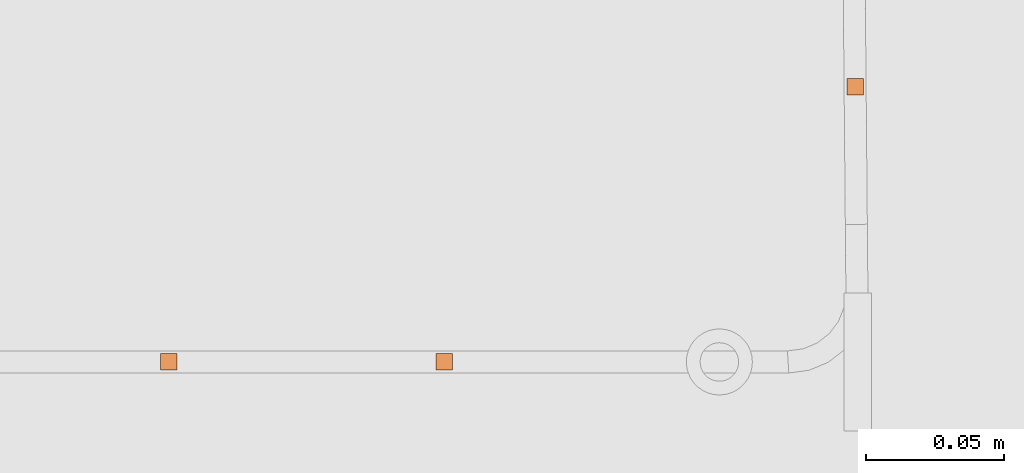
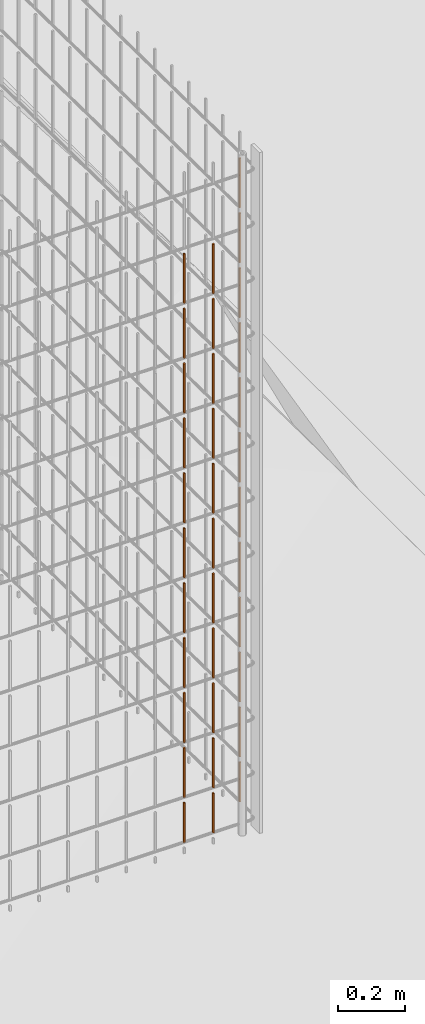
# One storey, part 254 of 1809: 34 proxies, 1 element without a shape of its own.
"""IFC2X3 building model written with IfcOpenShell, lengths in millimetres."""

from ifc_helpers import new_model, entity, si_unit, converted_unit, derived_unit, money_unit, direction, frame, origin_with_axes, place, context, subcontext, project, spatial, faceted_brep, source, transform, mapped, material, type_object, element, aggregate, save


model = new_model("IFC2X3")

# Units and contexts
model_context = context("Model", 3, precision=0.01, world=origin_with_axes(), true_north=direction((0.0, 1.0)))
body_context = subcontext(model_context, "Body", "Model", "MODEL_VIEW")
ifc_project = project(units=[si_unit("LENGTHUNIT", "METRE", prefix="MILLI"), si_unit("AREAUNIT", "SQUARE_METRE"), si_unit("VOLUMEUNIT", "CUBIC_METRE"), converted_unit("PLANEANGLEUNIT", "DEGREE", entity("IfcPlaneAngleMeasure", 0.0174532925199), si_unit("PLANEANGLEUNIT", "RADIAN"), dimensions=[0, 0, 0, 0, 0, 0, 0]), si_unit("SOLIDANGLEUNIT", "STERADIAN"), money_unit("EUR"), converted_unit("TIMEUNIT", "Year", entity("IfcTimeMeasure", 31556926.0), si_unit("TIMEUNIT", "SECOND"), dimensions=[0, 0, 1, 0, 0, 0, 0]), si_unit("MASSUNIT", "GRAM", prefix="KILO"), si_unit("THERMODYNAMICTEMPERATUREUNIT", "DEGREE_CELSIUS"), si_unit("LUMINOUSINTENSITYUNIT", "LUMEN"), si_unit("ENERGYUNIT", "JOULE", prefix="MEGA"), derived_unit("THERMALCONDUCTANCEUNIT", [(si_unit("POWERUNIT", "WATT"), 1), (si_unit("LENGTHUNIT", "METRE"), -1), (si_unit("THERMODYNAMICTEMPERATUREUNIT", "KELVIN"), -1)]), derived_unit("SPECIFICHEATCAPACITYUNIT", [(si_unit("ENERGYUNIT", "JOULE"), 1), (si_unit("MASSUNIT", "GRAM", prefix="KILO"), -1), (si_unit("THERMODYNAMICTEMPERATUREUNIT", "KELVIN"), -1)]), derived_unit("MASSDENSITYUNIT", [(si_unit("MASSUNIT", "GRAM", prefix="KILO"), 1), (si_unit("VOLUMEUNIT", "CUBIC_METRE"), -1)])], contexts=[model_context])

# Site, building, storey
site_placement = place(None, origin_with_axes())
site = spatial("IfcSite", under=ifc_project, at=site_placement, Name="Politse- ja Piirivalveameti ning Päästeameti ühishoone", CompositionType="ELEMENT")
building_placement = place(site_placement, origin_with_axes())
building = spatial("IfcBuilding", under=site, at=building_placement, Name="Politse- ja Piirivalveameti ning Päästeameti ühishoone", CompositionType="ELEMENT")
storey_placement = place(building_placement, origin_with_axes())
storey = spatial("IfcBuildingStorey", under=building, at=storey_placement, Name="Esimene korrus", CompositionType="ELEMENT", Elevation=0.0)

# Proxies
building_element_proxy_type_1 = type_object("IfcBuildingElementProxyType", Name="Railing Type", PredefinedType="NOTDEFINED")
proxy_1_placement = place(storey_placement, frame((-16775.8601056, 25156.7555964, 0.0), z_axis=(0.0, 0.0, 1.0), x_axis=(1.0, 0.0, 0.0)))
proxy_1 = element("IfcBuildingElementProxy", 1, at=proxy_1_placement, inside=storey, type_object=building_element_proxy_type_1, Name="KENNELI PIIRE")
ifc_material = material(Name="Teras - Konstruktsioon")
building_element_proxy_type_2 = type_object("IfcBuildingElementProxyType", Name="IfcBuildingElementProxy", PredefinedType="NOTDEFINED")
shared_shape_1 = source(origin_with_axes(), body_context, "Body", "Brep", [
    faceted_brep([(3.0, 3.0, 0.0), (-3.0, 3.0, 0.0), (-3.0, 3.0, 180.000012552), (3.0, 3.0, 180.000012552), (3.0, -3.0, 0.0), (-3.0, -3.0, 0.0), (-3.0, -3.0, 180.000012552), (3.0, -3.0, 180.000012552)], [[[0, 1, 2, 3]], [[0, 4, 5, 1]], [[1, 5, 6, 2]], [[3, 2, 6, 7]], [[4, 0, 3, 7]], [[5, 4, 7, 6]]]),
])
proxy_2_placement = place(proxy_1_placement, frame((-82.2665506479, -16068.8402798, 403.999987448), z_axis=(0.0, 0.0, 1.0), x_axis=(1.0, 0.0, 0.0)))
proxy_2 = element("IfcBuildingElementProxy", 2, at=proxy_2_placement, type_object=building_element_proxy_type_2, material=ifc_material, Name="BALUSTER - 001", context=body_context, shape_type="MappedRepresentation", body=[
    mapped(shared_shape_1, transform((0.0, 0.0, 0.0), x_axis=(0.0, -1.0, 0.0), y_axis=(1.0, 0.0, 0.0), z_axis=(0.0, 0.0, 1.0))),
])
proxy_3_placement = place(proxy_1_placement, frame((17.7334493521, -16068.8402798, 403.999987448), z_axis=(0.0, 0.0, 1.0), x_axis=(1.0, 0.0, 0.0)))
proxy_3 = element("IfcBuildingElementProxy", 3, at=proxy_3_placement, type_object=building_element_proxy_type_2, material=ifc_material, Name="BALUSTER - 001", context=body_context, shape_type="MappedRepresentation", body=[
    mapped(shared_shape_1, transform((0.0, 0.0, 0.0), x_axis=(0.0, -1.0, 0.0), y_axis=(1.0, 0.0, 0.0), z_axis=(0.0, 0.0, 1.0))),
])
proxy_4_placement = place(proxy_1_placement, frame((-82.2665506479, -16068.8402798, 803.999987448), z_axis=(0.0, 0.0, 1.0), x_axis=(1.0, 0.0, 0.0)))
proxy_4 = element("IfcBuildingElementProxy", 4, at=proxy_4_placement, type_object=building_element_proxy_type_2, material=ifc_material, Name="BALUSTER - 001", context=body_context, shape_type="MappedRepresentation", body=[
    mapped(shared_shape_1, transform((0.0, 0.0, 0.0), x_axis=(0.0, -1.0, 0.0), y_axis=(1.0, 0.0, 0.0), z_axis=(0.0, 0.0, 1.0))),
])
proxy_5_placement = place(proxy_1_placement, frame((17.7334493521, -16068.8402798, 803.999987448), z_axis=(0.0, 0.0, 1.0), x_axis=(1.0, 0.0, 0.0)))
proxy_5 = element("IfcBuildingElementProxy", 5, at=proxy_5_placement, type_object=building_element_proxy_type_2, material=ifc_material, Name="BALUSTER - 001", context=body_context, shape_type="MappedRepresentation", body=[
    mapped(shared_shape_1, transform((0.0, 0.0, 0.0), x_axis=(0.0, -1.0, 0.0), y_axis=(1.0, 0.0, 0.0), z_axis=(0.0, 0.0, 1.0))),
])
proxy_6_placement = place(proxy_1_placement, frame((-82.2665506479, -16068.8402798, 1003.99998745), z_axis=(0.0, 0.0, 1.0), x_axis=(1.0, 0.0, 0.0)))
proxy_6 = element("IfcBuildingElementProxy", 6, at=proxy_6_placement, type_object=building_element_proxy_type_2, material=ifc_material, Name="BALUSTER - 001", context=body_context, shape_type="MappedRepresentation", body=[
    mapped(shared_shape_1, transform((0.0, 0.0, 0.0), x_axis=(0.0, -1.0, 0.0), y_axis=(1.0, 0.0, 0.0), z_axis=(0.0, 0.0, 1.0))),
])
proxy_7_placement = place(proxy_1_placement, frame((17.7334493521, -16068.8402798, 1003.99998745), z_axis=(0.0, 0.0, 1.0), x_axis=(1.0, 0.0, 0.0)))
proxy_7 = element("IfcBuildingElementProxy", 7, at=proxy_7_placement, type_object=building_element_proxy_type_2, material=ifc_material, Name="BALUSTER - 001", context=body_context, shape_type="MappedRepresentation", body=[
    mapped(shared_shape_1, transform((0.0, 0.0, 0.0), x_axis=(0.0, -1.0, 0.0), y_axis=(1.0, 0.0, 0.0), z_axis=(0.0, 0.0, 1.0))),
])
proxy_8_placement = place(proxy_1_placement, frame((167.043761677, -15968.8442356, 403.999987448), z_axis=(0.0, 0.0, 1.0), x_axis=(1.0, 0.0, 0.0)))
proxy_8 = element("IfcBuildingElementProxy", 8, at=proxy_8_placement, type_object=building_element_proxy_type_2, material=ifc_material, Name="BALUSTER - 001", context=body_context, shape_type="MappedRepresentation", body=[
    mapped(shared_shape_1, transform((0.0, 0.0, 0.0), x_axis=(0.999960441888, 0.00889464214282, 0.0), y_axis=(-0.00889464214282, 0.999960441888, 0.0), z_axis=(0.0, 0.0, 1.0))),
])
proxy_9_placement = place(proxy_1_placement, frame((167.043761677, -15968.8442356, 803.999987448), z_axis=(0.0, 0.0, 1.0), x_axis=(1.0, 0.0, 0.0)))
proxy_9 = element("IfcBuildingElementProxy", 9, at=proxy_9_placement, type_object=building_element_proxy_type_2, material=ifc_material, Name="BALUSTER - 001", context=body_context, shape_type="MappedRepresentation", body=[
    mapped(shared_shape_1, transform((0.0, 0.0, 0.0), x_axis=(0.999960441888, 0.00889464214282, 0.0), y_axis=(-0.00889464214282, 0.999960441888, 0.0), z_axis=(0.0, 0.0, 1.0))),
])
proxy_10_placement = place(proxy_1_placement, frame((167.043761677, -15968.8442356, 1003.99998745), z_axis=(0.0, 0.0, 1.0), x_axis=(1.0, 0.0, 0.0)))
proxy_10 = element("IfcBuildingElementProxy", 10, at=proxy_10_placement, type_object=building_element_proxy_type_2, material=ifc_material, Name="BALUSTER - 001", context=body_context, shape_type="MappedRepresentation", body=[
    mapped(shared_shape_1, transform((0.0, 0.0, 0.0), x_axis=(0.999960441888, 0.00889464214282, 0.0), y_axis=(-0.00889464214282, 0.999960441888, 0.0), z_axis=(0.0, 0.0, 1.0))),
])
shared_shape_2 = source(origin_with_axes(), body_context, "Body", "Brep", [
    faceted_brep([(3.0, 3.0, 0.0), (-3.0, 3.0, 0.0), (-3.0, 3.0, 144.000012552), (3.0, 3.0, 144.000012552), (3.0, -3.0, 0.0), (-3.0, -3.0, 0.0), (-3.0, -3.0, 144.000012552), (3.0, -3.0, 144.000012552)], [[[0, 1, 2, 3]], [[0, 4, 5, 1]], [[1, 5, 6, 2]], [[3, 2, 6, 7]], [[4, 0, 3, 7]], [[5, 4, 7, 6]]]),
])
proxy_11_placement = place(proxy_1_placement, frame((-82.2665506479, -16068.8402798, 39.9999874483), z_axis=(0.0, 0.0, 1.0), x_axis=(1.0, 0.0, 0.0)))
proxy_11 = element("IfcBuildingElementProxy", 11, at=proxy_11_placement, type_object=building_element_proxy_type_2, material=ifc_material, Name="BALUSTER - 001", context=body_context, shape_type="MappedRepresentation", body=[
    mapped(shared_shape_2, transform((0.0, 0.0, 0.0), x_axis=(0.0, -1.0, 0.0), y_axis=(1.0, 0.0, 0.0), z_axis=(0.0, 0.0, 1.0))),
])
proxy_12_placement = place(proxy_1_placement, frame((17.7334493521, -16068.8402798, 39.9999874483), z_axis=(0.0, 0.0, 1.0), x_axis=(1.0, 0.0, 0.0)))
proxy_12 = element("IfcBuildingElementProxy", 12, at=proxy_12_placement, type_object=building_element_proxy_type_2, material=ifc_material, Name="BALUSTER - 001", context=body_context, shape_type="MappedRepresentation", body=[
    mapped(shared_shape_2, transform((0.0, 0.0, 0.0), x_axis=(0.0, -1.0, 0.0), y_axis=(1.0, 0.0, 0.0), z_axis=(0.0, 0.0, 1.0))),
])
proxy_13_placement = place(proxy_1_placement, frame((167.043761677, -15968.8442356, 39.9999874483), z_axis=(0.0, 0.0, 1.0), x_axis=(1.0, 0.0, 0.0)))
proxy_13 = element("IfcBuildingElementProxy", 13, at=proxy_13_placement, type_object=building_element_proxy_type_2, material=ifc_material, Name="BALUSTER - 001", context=body_context, shape_type="MappedRepresentation", body=[
    mapped(shared_shape_2, transform((0.0, 0.0, 0.0), x_axis=(0.999960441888, 0.00889464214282, 0.0), y_axis=(-0.00889464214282, 0.999960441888, 0.0), z_axis=(0.0, 0.0, 1.0))),
])
shared_shape_3 = source(origin_with_axes(), body_context, "Body", "Brep", [
    faceted_brep([(3.0, 3.0, 0.0), (-3.0, 3.0, 0.0), (-3.0, 3.0, 180.000012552), (3.0, 3.0, 180.000012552), (3.0, -3.0, 0.0), (-3.0, -3.0, 0.0), (-3.0, -3.0, 180.000012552), (3.0, -3.0, 180.000012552)], [[[0, 1, 2, 3]], [[0, 4, 5, 1]], [[1, 5, 6, 2]], [[3, 2, 6, 7]], [[4, 0, 3, 7]], [[5, 4, 7, 6]]]),
])
proxy_14_placement = place(proxy_1_placement, frame((167.043761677, -15968.8442356, 1803.99998745), z_axis=(0.0, 0.0, 1.0), x_axis=(1.0, 0.0, 0.0)))
proxy_14 = element("IfcBuildingElementProxy", 14, at=proxy_14_placement, type_object=building_element_proxy_type_2, material=ifc_material, Name="BALUSTER - 001", context=body_context, shape_type="MappedRepresentation", body=[
    mapped(shared_shape_3, transform((0.0, 0.0, 0.0), x_axis=(0.999960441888, 0.00889464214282, 0.0), y_axis=(-0.00889464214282, 0.999960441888, 0.0), z_axis=(0.0, 0.0, 1.0))),
])
shared_shape_4 = source(origin_with_axes(), body_context, "Body", "Brep", [
    faceted_brep([(3.0, 3.0, 0.0), (-3.0, 3.0, 0.0), (-3.0, 3.0, 180.000012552), (3.0, 3.0, 180.000012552), (3.0, -3.0, 0.0), (-3.0, -3.0, 0.0), (-3.0, -3.0, 180.000012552), (3.0, -3.0, 180.000012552)], [[[0, 1, 2, 3]], [[0, 4, 5, 1]], [[1, 5, 6, 2]], [[3, 2, 6, 7]], [[4, 0, 3, 7]], [[5, 4, 7, 6]]]),
])
proxy_15_placement = place(proxy_1_placement, frame((-82.2665506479, -16068.8402798, 1403.99998745), z_axis=(0.0, 0.0, 1.0), x_axis=(1.0, 0.0, 0.0)))
proxy_15 = element("IfcBuildingElementProxy", 15, at=proxy_15_placement, type_object=building_element_proxy_type_2, material=ifc_material, Name="BALUSTER - 001", context=body_context, shape_type="MappedRepresentation", body=[
    mapped(shared_shape_4, transform((0.0, 0.0, 0.0), x_axis=(0.0, -1.0, 0.0), y_axis=(1.0, 0.0, 0.0), z_axis=(0.0, 0.0, 1.0))),
])
proxy_16_placement = place(proxy_1_placement, frame((17.7334493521, -16068.8402798, 1403.99998745), z_axis=(0.0, 0.0, 1.0), x_axis=(1.0, 0.0, 0.0)))
proxy_16 = element("IfcBuildingElementProxy", 16, at=proxy_16_placement, type_object=building_element_proxy_type_2, material=ifc_material, Name="BALUSTER - 001", context=body_context, shape_type="MappedRepresentation", body=[
    mapped(shared_shape_4, transform((0.0, 0.0, 0.0), x_axis=(0.0, -1.0, 0.0), y_axis=(1.0, 0.0, 0.0), z_axis=(0.0, 0.0, 1.0))),
])
proxy_17_placement = place(proxy_1_placement, frame((167.043761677, -15968.8442356, 1403.99998745), z_axis=(0.0, 0.0, 1.0), x_axis=(1.0, 0.0, 0.0)))
proxy_17 = element("IfcBuildingElementProxy", 17, at=proxy_17_placement, type_object=building_element_proxy_type_2, material=ifc_material, Name="BALUSTER - 001", context=body_context, shape_type="MappedRepresentation", body=[
    mapped(shared_shape_4, transform((0.0, 0.0, 0.0), x_axis=(0.999960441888, 0.00889464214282, 0.0), y_axis=(-0.00889464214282, 0.999960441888, 0.0), z_axis=(0.0, 0.0, 1.0))),
])
shared_shape_5 = source(origin_with_axes(), body_context, "Body", "Brep", [
    faceted_brep([(3.0, 3.0, 0.0), (-3.0, 3.0, 0.0), (-3.0, 3.0, 180.000012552), (3.0, 3.0, 180.000012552), (3.0, -3.0, 0.0), (-3.0, -3.0, 0.0), (-3.0, -3.0, 180.000012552), (3.0, -3.0, 180.000012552)], [[[0, 1, 2, 3]], [[0, 4, 5, 1]], [[1, 5, 6, 2]], [[3, 2, 6, 7]], [[4, 0, 3, 7]], [[5, 4, 7, 6]]]),
])
proxy_18_placement = place(proxy_1_placement, frame((-82.2665506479, -16068.8402798, 1803.99998745), z_axis=(0.0, 0.0, 1.0), x_axis=(1.0, 0.0, 0.0)))
proxy_18 = element("IfcBuildingElementProxy", 18, at=proxy_18_placement, type_object=building_element_proxy_type_2, material=ifc_material, Name="BALUSTER - 001", context=body_context, shape_type="MappedRepresentation", body=[
    mapped(shared_shape_5, transform((0.0, 0.0, 0.0), x_axis=(0.0, -1.0, 0.0), y_axis=(1.0, 0.0, 0.0), z_axis=(0.0, 0.0, 1.0))),
])
shared_shape_6 = source(origin_with_axes(), body_context, "Body", "Brep", [
    faceted_brep([(3.0, 3.0, 0.0), (-3.0, 3.0, 0.0), (-3.0, 2.99999999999, 180.000012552), (3.0, 2.99999999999, 180.000012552), (3.0, -3.0, 0.0), (-3.0, -3.0, 0.0), (-3.0, -3.00000000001, 180.000012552), (3.0, -3.00000000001, 180.000012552)], [[[0, 1, 2, 3]], [[0, 4, 5, 1]], [[1, 5, 6, 2]], [[3, 2, 6, 7]], [[4, 0, 3, 7]], [[5, 4, 7, 6]]]),
])
proxy_19_placement = place(proxy_1_placement, frame((17.7334493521, -16068.8402798, 1803.99998745), z_axis=(0.0, 0.0, 1.0), x_axis=(1.0, 0.0, 0.0)))
proxy_19 = element("IfcBuildingElementProxy", 19, at=proxy_19_placement, type_object=building_element_proxy_type_2, material=ifc_material, Name="BALUSTER - 001", context=body_context, shape_type="MappedRepresentation", body=[
    mapped(shared_shape_6, transform((0.0, 0.0, 0.0), x_axis=(0.0, -1.0, 0.0), y_axis=(1.0, 0.0, 0.0), z_axis=(0.0, 0.0, 1.0))),
])
shared_shape_7 = source(origin_with_axes(), body_context, "Body", "Brep", [
    faceted_brep([(3.0, 3.0, 0.0), (-3.0, 3.0, 0.0), (-3.0, 3.0, 180.000012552), (3.0, 3.0, 180.000012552), (3.0, -3.0, 0.0), (-3.0, -3.0, 0.0), (-3.0, -3.0, 180.000012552), (3.0, -3.0, 180.000012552)], [[[0, 1, 2, 3]], [[0, 4, 5, 1]], [[1, 5, 6, 2]], [[3, 2, 6, 7]], [[4, 0, 3, 7]], [[5, 4, 7, 6]]]),
])
proxy_20_placement = place(proxy_1_placement, frame((-82.2665506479, -16068.8402798, 2003.99998745), z_axis=(0.0, 0.0, 1.0), x_axis=(1.0, 0.0, 0.0)))
proxy_20 = element("IfcBuildingElementProxy", 20, at=proxy_20_placement, type_object=building_element_proxy_type_2, material=ifc_material, Name="BALUSTER - 001", context=body_context, shape_type="MappedRepresentation", body=[
    mapped(shared_shape_7, transform((0.0, 0.0, 0.0), x_axis=(0.0, -1.0, 0.0), y_axis=(1.0, 0.0, 0.0), z_axis=(0.0, 0.0, 1.0))),
])
proxy_21_placement = place(proxy_1_placement, frame((17.7334493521, -16068.8402798, 2003.99998745), z_axis=(0.0, 0.0, 1.0), x_axis=(1.0, 0.0, 0.0)))
proxy_21 = element("IfcBuildingElementProxy", 21, at=proxy_21_placement, type_object=building_element_proxy_type_2, material=ifc_material, Name="BALUSTER - 001", context=body_context, shape_type="MappedRepresentation", body=[
    mapped(shared_shape_7, transform((0.0, 0.0, 0.0), x_axis=(0.0, -1.0, 0.0), y_axis=(1.0, 0.0, 0.0), z_axis=(0.0, 0.0, 1.0))),
])
proxy_22_placement = place(proxy_1_placement, frame((167.043761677, -15968.8442356, 2003.99998745), z_axis=(0.0, 0.0, 1.0), x_axis=(1.0, 0.0, 0.0)))
proxy_22 = element("IfcBuildingElementProxy", 22, at=proxy_22_placement, type_object=building_element_proxy_type_2, material=ifc_material, Name="BALUSTER - 001", context=body_context, shape_type="MappedRepresentation", body=[
    mapped(shared_shape_7, transform((0.0, 0.0, 0.0), x_axis=(0.999960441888, 0.00889464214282, 0.0), y_axis=(-0.00889464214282, 0.999960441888, 0.0), z_axis=(0.0, 0.0, 1.0))),
])
shared_shape_8 = source(origin_with_axes(), body_context, "Body", "Brep", [
    faceted_brep([(3.0, 3.0, 0.0), (-3.0, 3.0, 0.0), (-3.0, 3.0, 180.000012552), (3.0, 3.0, 180.000012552), (3.0, -3.0, 0.0), (-3.0, -3.0, 0.0), (-3.0, -3.0, 180.000012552), (3.0, -3.0, 180.000012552)], [[[0, 1, 2, 3]], [[0, 4, 5, 1]], [[1, 5, 6, 2]], [[3, 2, 6, 7]], [[4, 0, 3, 7]], [[5, 4, 7, 6]]]),
])
proxy_23_placement = place(proxy_1_placement, frame((167.043761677, -15968.8442356, 2203.99998745), z_axis=(0.0, 0.0, 1.0), x_axis=(1.0, 0.0, 0.0)))
proxy_23 = element("IfcBuildingElementProxy", 23, at=proxy_23_placement, type_object=building_element_proxy_type_2, material=ifc_material, Name="BALUSTER - 001", context=body_context, shape_type="MappedRepresentation", body=[
    mapped(shared_shape_8, transform((0.0, 0.0, 0.0), x_axis=(0.999960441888, 0.00889464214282, 0.0), y_axis=(-0.00889464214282, 0.999960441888, 0.0), z_axis=(0.0, 0.0, 1.0))),
])
proxy_24_placement = place(proxy_1_placement, frame((167.043761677, -15968.8442356, 1203.99998745), z_axis=(0.0, 0.0, 1.0), x_axis=(1.0, 0.0, 0.0)))
proxy_24 = element("IfcBuildingElementProxy", 24, at=proxy_24_placement, type_object=building_element_proxy_type_2, material=ifc_material, Name="BALUSTER - 001", context=body_context, shape_type="MappedRepresentation", body=[
    mapped(shared_shape_8, transform((0.0, 0.0, 0.0), x_axis=(0.999960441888, 0.00889464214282, 0.0), y_axis=(-0.00889464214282, 0.999960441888, 0.0), z_axis=(0.0, 0.0, 1.0))),
])
shared_shape_9 = source(origin_with_axes(), body_context, "Body", "Brep", [
    faceted_brep([(3.0, 3.0, 0.0), (-3.0, 3.0, 0.0), (-3.0, 3.0, 180.000012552), (3.0, 3.0, 180.000012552), (3.0, -3.0, 0.0), (-3.0, -3.0, 0.0), (-3.0, -3.0, 180.000012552), (3.0, -3.0, 180.000012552)], [[[0, 1, 2, 3]], [[0, 4, 5, 1]], [[1, 5, 6, 2]], [[3, 2, 6, 7]], [[4, 0, 3, 7]], [[5, 4, 7, 6]]]),
])
proxy_25_placement = place(proxy_1_placement, frame((167.043761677, -15968.8442356, 203.999987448), z_axis=(0.0, 0.0, 1.0), x_axis=(1.0, 0.0, 0.0)))
proxy_25 = element("IfcBuildingElementProxy", 25, at=proxy_25_placement, type_object=building_element_proxy_type_2, material=ifc_material, Name="BALUSTER - 001", context=body_context, shape_type="MappedRepresentation", body=[
    mapped(shared_shape_9, transform((0.0, 0.0, 0.0), x_axis=(0.999960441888, 0.00889464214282, 0.0), y_axis=(-0.00889464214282, 0.999960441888, 0.0), z_axis=(0.0, 0.0, 1.0))),
])
shared_shape_10 = source(origin_with_axes(), body_context, "Body", "Brep", [
    faceted_brep([(3.0, 3.0, 0.0), (-3.0, 3.0, 0.0), (-3.0, 3.0, 180.000012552), (3.0, 3.0, 180.000012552), (3.0, -3.0, 0.0), (-3.0, -3.0, 0.0), (-3.0, -3.0, 180.000012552), (3.0, -3.0, 180.000012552)], [[[0, 1, 2, 3]], [[0, 4, 5, 1]], [[1, 5, 6, 2]], [[3, 2, 6, 7]], [[4, 0, 3, 7]], [[5, 4, 7, 6]]]),
])
proxy_26_placement = place(proxy_1_placement, frame((167.043761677, -15968.8442356, 603.999987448), z_axis=(0.0, 0.0, 1.0), x_axis=(1.0, 0.0, 0.0)))
proxy_26 = element("IfcBuildingElementProxy", 26, at=proxy_26_placement, type_object=building_element_proxy_type_2, material=ifc_material, Name="BALUSTER - 001", context=body_context, shape_type="MappedRepresentation", body=[
    mapped(shared_shape_10, transform((0.0, 0.0, 0.0), x_axis=(0.999960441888, 0.00889464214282, 0.0), y_axis=(-0.00889464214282, 0.999960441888, 0.0), z_axis=(0.0, 0.0, 1.0))),
])
shared_shape_11 = source(origin_with_axes(), body_context, "Body", "Brep", [
    faceted_brep([(3.0, 3.0, 0.0), (-3.0, 3.0, 0.0), (-3.0, 3.0, 180.000012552), (3.0, 3.0, 180.000012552), (3.0, -3.0, 0.0), (-3.0, -3.0, 0.0), (-3.0, -3.0, 180.000012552), (3.0, -3.0, 180.000012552)], [[[0, 1, 2, 3]], [[0, 4, 5, 1]], [[1, 5, 6, 2]], [[3, 2, 6, 7]], [[4, 0, 3, 7]], [[5, 4, 7, 6]]]),
])
proxy_27_placement = place(proxy_1_placement, frame((167.043761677, -15968.8442356, 1603.99998745), z_axis=(0.0, 0.0, 1.0), x_axis=(1.0, 0.0, 0.0)))
proxy_27 = element("IfcBuildingElementProxy", 27, at=proxy_27_placement, type_object=building_element_proxy_type_2, material=ifc_material, Name="BALUSTER - 001", context=body_context, shape_type="MappedRepresentation", body=[
    mapped(shared_shape_11, transform((0.0, 0.0, 0.0), x_axis=(0.999960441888, 0.00889464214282, 0.0), y_axis=(-0.00889464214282, 0.999960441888, 0.0), z_axis=(0.0, 0.0, 1.0))),
])
shared_shape_12 = source(origin_with_axes(), body_context, "Body", "Brep", [
    faceted_brep([(3.0, 3.0, 0.0), (-3.0, 3.0, 0.0), (-3.0, 3.0, 180.000012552), (3.0, 3.0, 180.000012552), (3.0, -3.0, 0.0), (-3.0, -3.0, 0.0), (-3.0, -3.0, 180.000012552), (3.0, -3.0, 180.000012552)], [[[0, 1, 2, 3]], [[0, 4, 5, 1]], [[1, 5, 6, 2]], [[3, 2, 6, 7]], [[4, 0, 3, 7]], [[5, 4, 7, 6]]]),
])
proxy_28_placement = place(proxy_1_placement, frame((-82.2665506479, -16068.8402798, 1203.99998745), z_axis=(0.0, 0.0, 1.0), x_axis=(1.0, 0.0, 0.0)))
proxy_28 = element("IfcBuildingElementProxy", 28, at=proxy_28_placement, type_object=building_element_proxy_type_2, material=ifc_material, Name="BALUSTER - 001", context=body_context, shape_type="MappedRepresentation", body=[
    mapped(shared_shape_12, transform((0.0, 0.0, 0.0), x_axis=(0.0, -1.0, 0.0), y_axis=(1.0, 0.0, 0.0), z_axis=(0.0, 0.0, 1.0))),
])
proxy_29_placement = place(proxy_1_placement, frame((17.7334493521, -16068.8402798, 1203.99998745), z_axis=(0.0, 0.0, 1.0), x_axis=(1.0, 0.0, 0.0)))
proxy_29 = element("IfcBuildingElementProxy", 29, at=proxy_29_placement, type_object=building_element_proxy_type_2, material=ifc_material, Name="BALUSTER - 001", context=body_context, shape_type="MappedRepresentation", body=[
    mapped(shared_shape_12, transform((0.0, 0.0, 0.0), x_axis=(0.0, -1.0, 0.0), y_axis=(1.0, 0.0, 0.0), z_axis=(0.0, 0.0, 1.0))),
])
shared_shape_13 = source(origin_with_axes(), body_context, "Body", "Brep", [
    faceted_brep([(3.0, 3.0, 0.0), (-3.0, 3.0, 0.0), (-3.0, 3.0, 180.000012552), (3.0, 3.0, 180.000012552), (3.0, -3.0, 0.0), (-3.0, -3.0, 0.0), (-3.0, -3.0, 180.000012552), (3.0, -3.0, 180.000012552)], [[[0, 1, 2, 3]], [[0, 4, 5, 1]], [[1, 5, 6, 2]], [[3, 2, 6, 7]], [[4, 0, 3, 7]], [[5, 4, 7, 6]]]),
])
proxy_30_placement = place(proxy_1_placement, frame((-82.2665506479, -16068.8402798, 203.999987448), z_axis=(0.0, 0.0, 1.0), x_axis=(1.0, 0.0, 0.0)))
proxy_30 = element("IfcBuildingElementProxy", 30, at=proxy_30_placement, type_object=building_element_proxy_type_2, material=ifc_material, Name="BALUSTER - 001", context=body_context, shape_type="MappedRepresentation", body=[
    mapped(shared_shape_13, transform((0.0, 0.0, 0.0), x_axis=(0.0, -1.0, 0.0), y_axis=(1.0, 0.0, 0.0), z_axis=(0.0, 0.0, 1.0))),
])
proxy_31_placement = place(proxy_1_placement, frame((17.7334493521, -16068.8402798, 203.999987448), z_axis=(0.0, 0.0, 1.0), x_axis=(1.0, 0.0, 0.0)))
proxy_31 = element("IfcBuildingElementProxy", 31, at=proxy_31_placement, type_object=building_element_proxy_type_2, material=ifc_material, Name="BALUSTER - 001", context=body_context, shape_type="MappedRepresentation", body=[
    mapped(shared_shape_13, transform((0.0, 0.0, 0.0), x_axis=(0.0, -1.0, 0.0), y_axis=(1.0, 0.0, 0.0), z_axis=(0.0, 0.0, 1.0))),
])
shared_shape_14 = source(origin_with_axes(), body_context, "Body", "Brep", [
    faceted_brep([(3.0, 3.0, 0.0), (-3.0, 3.0, 0.0), (-3.0, 3.0, 180.000012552), (3.0, 3.0, 180.000012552), (3.0, -3.0, 0.0), (-3.0, -3.0, 0.0), (-3.0, -3.0, 180.000012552), (3.0, -3.0, 180.000012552)], [[[0, 1, 2, 3]], [[0, 4, 5, 1]], [[1, 5, 6, 2]], [[3, 2, 6, 7]], [[4, 0, 3, 7]], [[5, 4, 7, 6]]]),
])
proxy_32_placement = place(proxy_1_placement, frame((-82.2665506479, -16068.8402798, 603.999987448), z_axis=(0.0, 0.0, 1.0), x_axis=(1.0, 0.0, 0.0)))
proxy_32 = element("IfcBuildingElementProxy", 32, at=proxy_32_placement, type_object=building_element_proxy_type_2, material=ifc_material, Name="BALUSTER - 001", context=body_context, shape_type="MappedRepresentation", body=[
    mapped(shared_shape_14, transform((0.0, 0.0, 0.0), x_axis=(0.0, -1.0, 0.0), y_axis=(1.0, 0.0, 0.0), z_axis=(0.0, 0.0, 1.0))),
])
shared_shape_15 = source(origin_with_axes(), body_context, "Body", "Brep", [
    faceted_brep([(3.0, 3.0, 0.0), (-3.0, 3.0, 0.0), (-3.0, 3.0, 180.000012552), (3.0, 3.0, 180.000012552), (3.0, -3.0, 0.0), (-3.0, -3.0, 0.0), (-3.0, -3.0, 180.000012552), (3.0, -3.0, 180.000012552)], [[[0, 1, 2, 3]], [[0, 4, 5, 1]], [[1, 5, 6, 2]], [[3, 2, 6, 7]], [[4, 0, 3, 7]], [[5, 4, 7, 6]]]),
])
proxy_33_placement = place(proxy_1_placement, frame((-82.2665506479, -16068.8402798, 1603.99998745), z_axis=(0.0, 0.0, 1.0), x_axis=(1.0, 0.0, 0.0)))
proxy_33 = element("IfcBuildingElementProxy", 33, at=proxy_33_placement, type_object=building_element_proxy_type_2, material=ifc_material, Name="BALUSTER - 001", context=body_context, shape_type="MappedRepresentation", body=[
    mapped(shared_shape_15, transform((0.0, 0.0, 0.0), x_axis=(0.0, -1.0, 0.0), y_axis=(1.0, 0.0, 0.0), z_axis=(0.0, 0.0, 1.0))),
])
proxy_34_placement = place(proxy_1_placement, frame((17.7334493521, -16068.8402798, 1603.99998745), z_axis=(0.0, 0.0, 1.0), x_axis=(1.0, 0.0, 0.0)))
proxy_34 = element("IfcBuildingElementProxy", 34, at=proxy_34_placement, type_object=building_element_proxy_type_2, material=ifc_material, Name="BALUSTER - 001", context=body_context, shape_type="MappedRepresentation", body=[
    mapped(shared_shape_15, transform((0.0, 0.0, 0.0), x_axis=(0.0, -1.0, 0.0), y_axis=(1.0, 0.0, 0.0), z_axis=(0.0, 0.0, 1.0))),
])
shared_shape_16 = source(origin_with_axes(), body_context, "Body", "Brep", [
    faceted_brep([(3.0, 3.0, 0.0), (-3.0, 3.0, 0.0), (-3.0, 3.0, 180.000012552), (3.0, 3.0, 180.000012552), (3.0, -3.0, 0.0), (-3.0, -3.0, 0.0), (-3.0, -3.0, 180.000012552), (3.0, -3.0, 180.000012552)], [[[0, 1, 2, 3]], [[0, 4, 5, 1]], [[1, 5, 6, 2]], [[3, 2, 6, 7]], [[4, 0, 3, 7]], [[5, 4, 7, 6]]]),
])
proxy_35_placement = place(proxy_1_placement, frame((17.7334493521, -16068.8402798, 603.999987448), z_axis=(0.0, 0.0, 1.0), x_axis=(1.0, 0.0, 0.0)))
proxy_35 = element("IfcBuildingElementProxy", 35, at=proxy_35_placement, type_object=building_element_proxy_type_2, material=ifc_material, Name="BALUSTER - 001", context=body_context, shape_type="MappedRepresentation", body=[
    mapped(shared_shape_16, transform((0.0, 0.0, 0.0), x_axis=(0.0, -1.0, 0.0), y_axis=(1.0, 0.0, 0.0), z_axis=(0.0, 0.0, 1.0))),
])
aggregate(proxy_1, [proxy_11, proxy_12, proxy_30, proxy_31, proxy_2, proxy_3, proxy_32, proxy_35, proxy_4, proxy_5, proxy_6, proxy_7, proxy_28, proxy_29, proxy_15, proxy_16, proxy_33, proxy_34, proxy_18, proxy_19, proxy_20, proxy_21, proxy_23, proxy_13, proxy_25, proxy_8, proxy_26, proxy_9, proxy_10, proxy_24, proxy_17, proxy_27, proxy_14, proxy_22])

save(model, "model.ifc")
